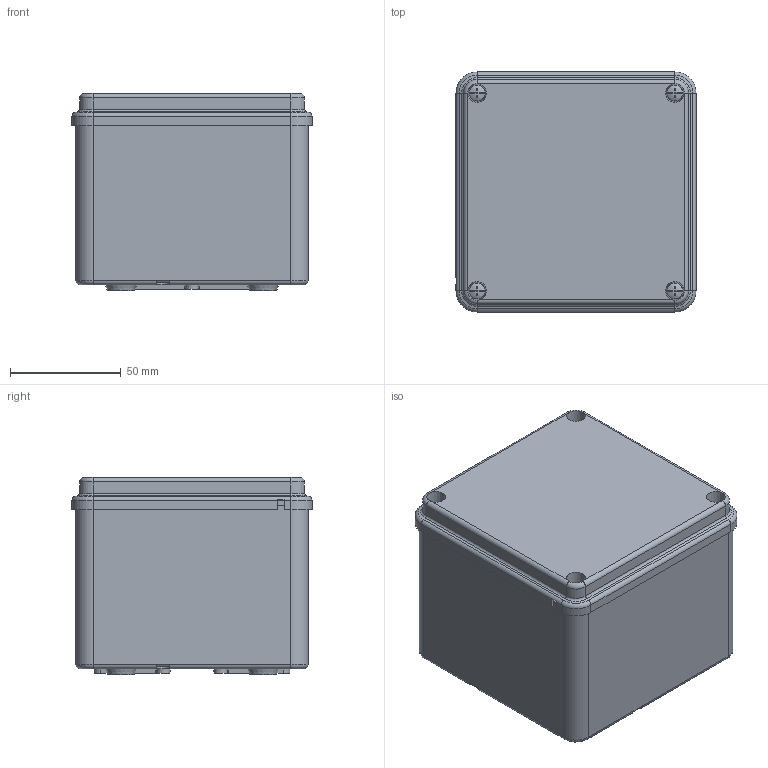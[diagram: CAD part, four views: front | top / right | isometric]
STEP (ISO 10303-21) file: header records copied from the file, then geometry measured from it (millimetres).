
FILE_DESCRIPTION(/* description */ (''),/* implementation_level */ '2;1');
FILE_NAME(/* name */ '4003389.stp',/* time_stamp */ '2019-03-01T10:43:27+01:00',/* author */ (''),/* organization */ (''),/* preprocessor_version */ 'ST-DEVELOPER v16.7',/* originating_system */ 'SIEMENS PLM Software NX 12.0',/* authorisation */ '');
FILE_SCHEMA (('AUTOMOTIVE_DESIGN { 1 0 10303 214 3 1 1 1 }'));
Length unit declared in the file: millimetre
Products named in the file (1): bsom23CC53FBowac
Bounding box: 108.2 x 108.2 x 88.8 mm (x, y, z)
Volume: 144526.4 mm3; surface area: 136787.6 mm2
Topology: 6 solids, 6 shells, 651 faces, 1617 edges, 1015 vertices
Faces by surface type: plane 312, cylinder 165, cone 90, torus 68, bspline 8, sphere 8
Full cylindrical faces by diameter (mm): 3.2 x4, 4 x4, 7.5 x4, 10 x4, 13 x4
Entity records: 18803 total; most frequent: CARTESIAN_POINT 3674, DIRECTION 3250, ORIENTED_EDGE 2972, EDGE_CURVE 1486, AXIS2_PLACEMENT_3D 1208, VERTEX_POINT 964, LINE 834, VECTOR 834
